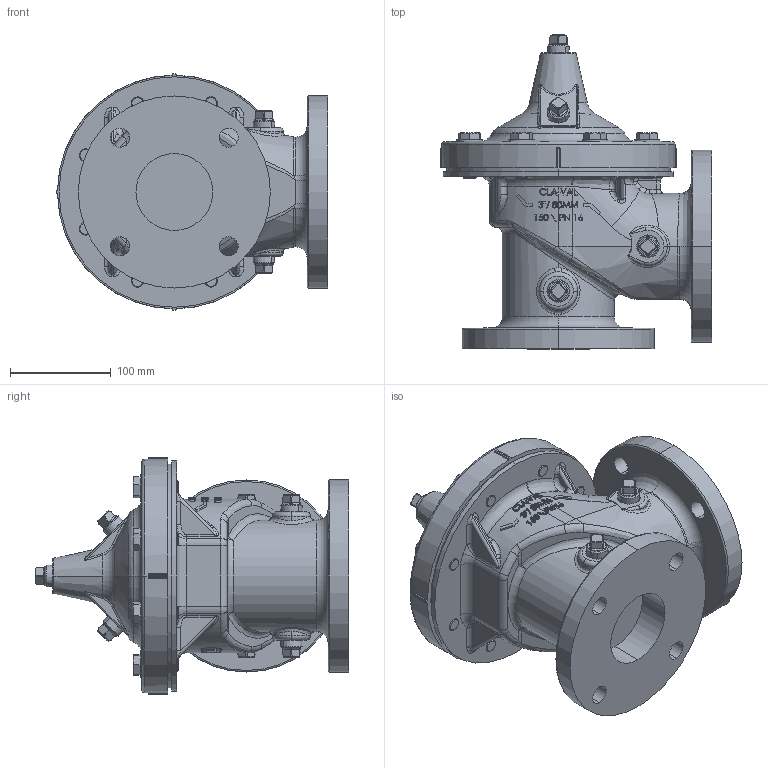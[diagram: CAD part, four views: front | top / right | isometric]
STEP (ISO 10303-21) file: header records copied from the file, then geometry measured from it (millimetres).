
FILE_DESCRIPTION (( 'STEP AP203' ), '1' );
FILE_NAME ('3in 100-01 150AA.STEP', '2020-05-12T14:51:47', ( '' ), ( '' ), 'SwSTEP 2.0', 'SolidWorks 2019', '' );
FILE_SCHEMA (( 'CONFIG_CONTROL_DESIGN' ));
Length unit declared in the file: inch
Products named in the file (6): WASHER, PLAIN FLAT FOR .500 SCREW (67750)_.500N   67750-04C; 3in 100-01 150AA; Bolt .500-13 UNC  (67607)_1.5   67607-74H; .500 NPT SQ HD PIPE PLUG (67660)_Default MONEL; 3in Body 2100 150A Blue_ductile iron; 3in Cover (no core)_Default (NO CORE)
Assembly tree (25 placements, depth 2):
  3in 100-01 150AA
    3in Body 2100 150A Blue_ductile iron
    3in Cover (no core)_Default (NO CORE)
    Bolt .500-13 UNC  (67607)_1.5   67607-74H  x8
    .500 NPT SQ HD PIPE PLUG (67660)_Default MONEL  x7
    WASHER, PLAIN FLAT FOR .500 SCREW (67750)_.500N   67750-04C  x8
Bounding box: 269.75 x 311.28 x 234.7 mm (x, y, z)
Volume: 5617143.7 mm3; surface area: 477028.9 mm2
Topology: 25 solids, 25 shells, 1600 faces, 3742 edges, 2145 vertices
Faces by surface type: plane 393, bspline 388, cylinder 366, cone 201, torus 156, sphere 96
Entity records: 42421 total; most frequent: CARTESIAN_POINT 20500, ORIENTED_EDGE 4632, DIRECTION 3996, EDGE_CURVE 2316, AXIS2_PLACEMENT_3D 1610, VERTEX_POINT 1409, EDGE_LOOP 1055, ADVANCED_FACE 961
